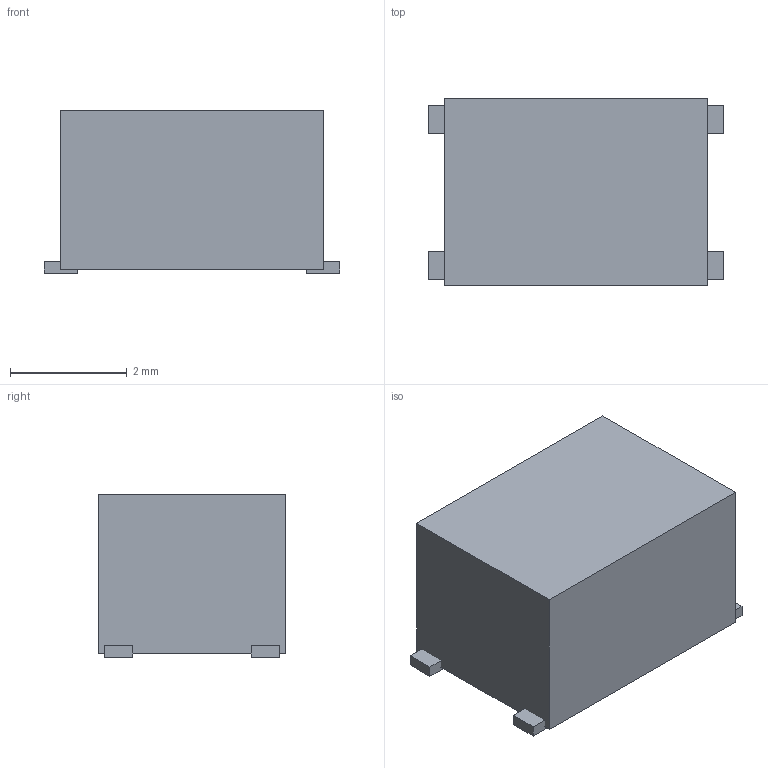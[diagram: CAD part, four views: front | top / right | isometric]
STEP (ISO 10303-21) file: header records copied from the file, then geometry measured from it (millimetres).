
FILE_DESCRIPTION(('FreeCAD Model'),'2;1');
FILE_NAME('Open CASCADE Shape Model','2026-09-23T12:07:02',('FreeCAD'),( 'FreeCAD'),'Open CASCADE STEP processor 7.8','FreeCAD','Unknown');
FILE_SCHEMA(('AUTOMOTIVE_DESIGN { 1 0 10303 214 1 1 1 1 }'));
Length unit declared in the file: millimetre
Products named in the file (1): Open CASCADE STEP translator 7.8 5
Bounding box: 5.05 x 3.2 x 2.77 mm (x, y, z)
Volume: 39.4 mm3; surface area: 74.5 mm2
Topology: 5 solids, 5 shells, 30 faces, 60 edges, 40 vertices
Faces by surface type: plane 30
Entity records: 766 total; most frequent: CARTESIAN_POINT 131, DIRECTION 122, ORIENTED_EDGE 120, EDGE_CURVE 60, LINE 60, VECTOR 60, VERTEX_POINT 40, AXIS2_PLACEMENT_3D 31
